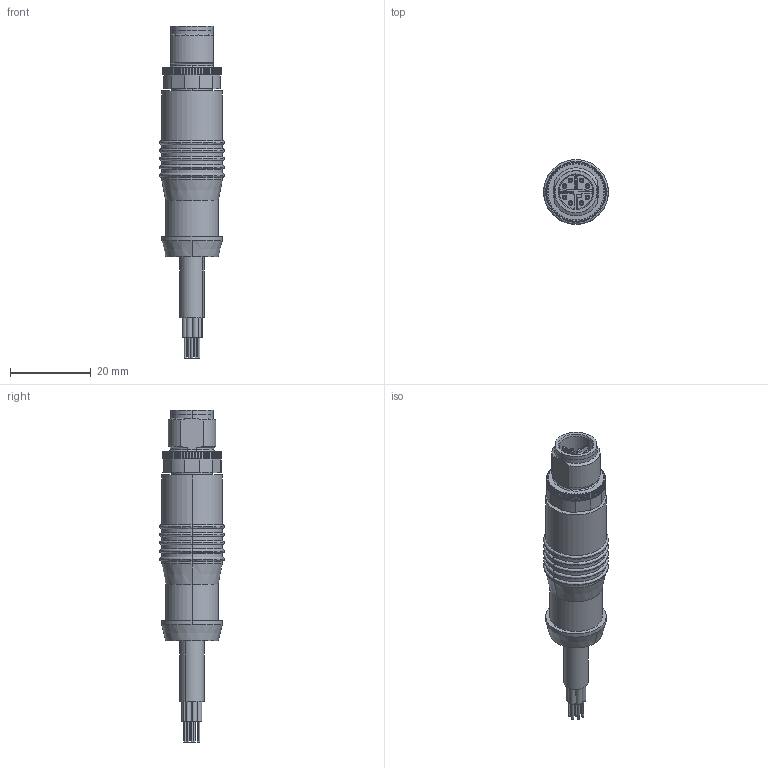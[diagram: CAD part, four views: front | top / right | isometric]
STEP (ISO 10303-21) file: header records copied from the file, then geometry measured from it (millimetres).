
FILE_DESCRIPTION (( 'STEP AP214' ), '1' );
FILE_NAME ('MI-L0.STEP', '2023-06-22T08:36:03', ( '' ), ( '' ), 'SwSTEP 2.0', 'SolidWorks 2021', '' );
FILE_SCHEMA (( 'AUTOMOTIVE_DESIGN' ));
Length unit declared in the file: millimetre
Products named in the file (4): MI-L0; MI_Cable_8; 99-3787-810-08-001_00; MV-13 Overmold
Assembly tree (3 placements, depth 2):
  MI-L0
    99-3787-810-08-001_00
    MV-13 Overmold
    MI_Cable_8
Bounding box: 16 x 16 x 82.05 mm (x, y, z)
Volume: 8536.7 mm3; surface area: 4630.6 mm2
Topology: 19 solids, 19 shells, 610 faces, 1562 edges, 996 vertices
Faces by surface type: plane 318, cylinder 234, bspline 48, cone 10
Entity records: 20835 total; most frequent: CARTESIAN_POINT 4036, DIRECTION 3268, ORIENTED_EDGE 3092, EDGE_CURVE 1546, AXIS2_PLACEMENT_3D 1190, VERTEX_POINT 996, VECTOR 888, LINE 888
